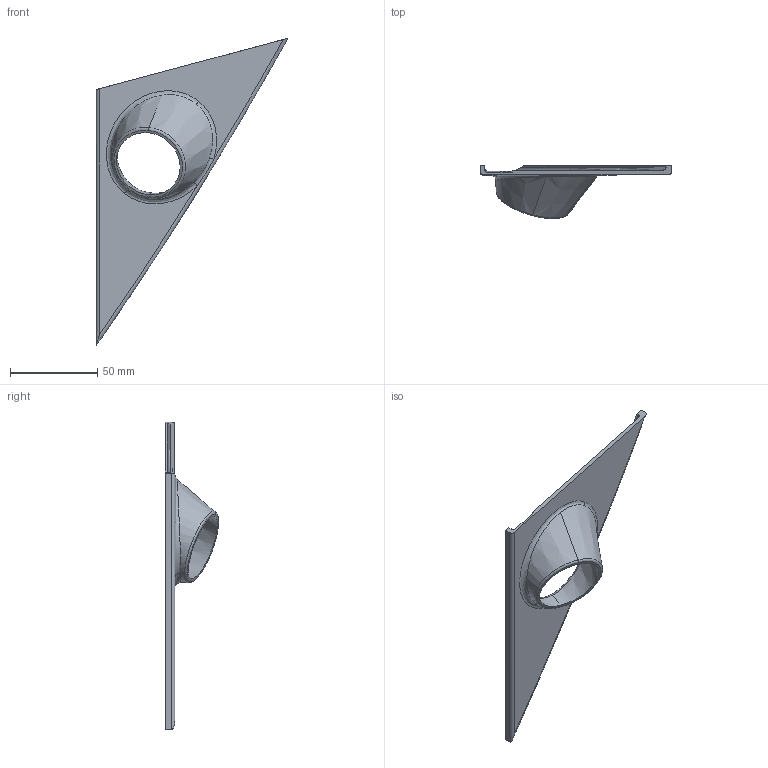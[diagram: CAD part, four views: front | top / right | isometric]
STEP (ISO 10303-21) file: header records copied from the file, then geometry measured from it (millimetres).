
FILE_DESCRIPTION (( 'STEP AP214' ), '1' );
FILE_NAME ('tweeter38mm.STEP', '2021-01-03T14:41:42', ( '' ), ( '' ), 'SwSTEP 2.0', 'SolidWorks 2018', '' );
FILE_SCHEMA (( 'AUTOMOTIVE_DESIGN' ));
Length unit declared in the file: millimetre
Products named in the file (1): tweeter38mm
Bounding box: 110.12 x 30.59 x 176.51 mm (x, y, z)
Volume: 26933.7 mm3; surface area: 20987.7 mm2
Topology: 1 solids, 1 shells, 31 faces, 85 edges, 55 vertices
Faces by surface type: plane 13, bspline 6, torus 4, cone 4, cylinder 4
Entity records: 1770 total; most frequent: CARTESIAN_POINT 1020, ORIENTED_EDGE 170, DIRECTION 129, EDGE_CURVE 85, VERTEX_POINT 55, AXIS2_PLACEMENT_3D 49, EDGE_LOOP 32, LINE 31
